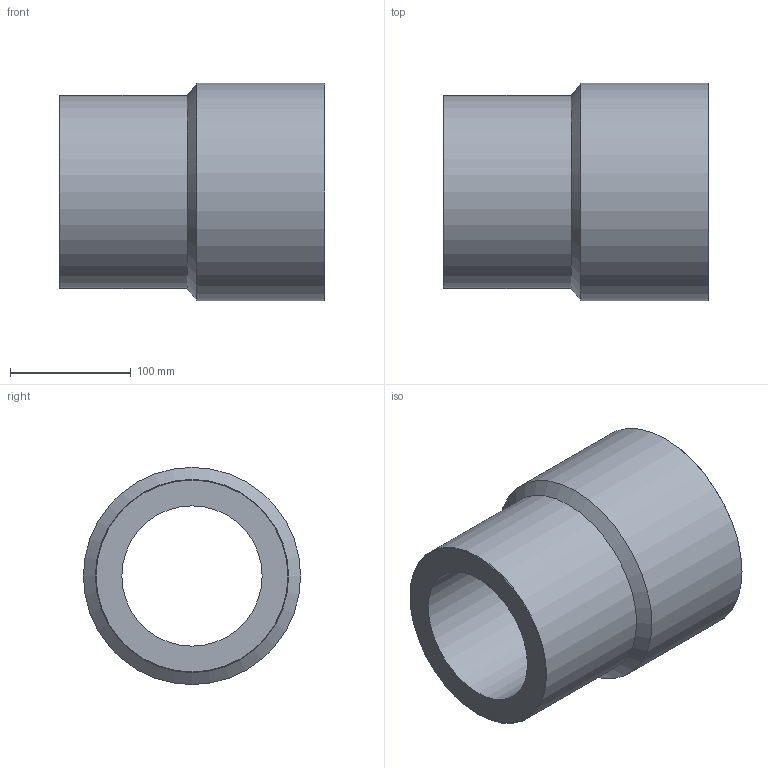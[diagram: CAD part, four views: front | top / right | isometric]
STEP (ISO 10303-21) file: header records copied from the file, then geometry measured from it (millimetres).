
FILE_DESCRIPTION(/* description */ ('Unknown'),/* implementation_level */ '2;1');
FILE_NAME(/* name */ 'RP180160H',/* time_stamp */ '2021-09-16T14:44:02+02:00',/* author */ ('Unknown'),/* organization */ ('Unknown'),/* preprocessor_version */ 'ST-DEVELOPER v16.7',/* originating_system */ 'Solid Edge',/* authorisation */ 'Unknown');
FILE_SCHEMA (('AUTOMOTIVE_DESIGN {1 0 10303 214 3 1 1}'));
Length unit declared in the file: millimetre
Products named in the file (1): RP180160H
Bounding box: 220 x 180 x 180 mm (x, y, z)
Volume: 2384453.4 mm3; surface area: 227059.9 mm2
Topology: 1 solids, 1 shells, 10 faces, 19 edges, 11 vertices
Faces by surface type: cylinder 4, cone 4, plane 2
Full cylindrical faces by diameter (mm): 116.2 x1, 130.8 x1, 160 x1, 180 x1
Entity records: 238 total; most frequent: DIRECTION 42, CARTESIAN_POINT 31, AXIS2_PLACEMENT_3D 21, ORIENTED_EDGE 20, EDGE_LOOP 20, FACE_BOUND 20, EDGE_CURVE 10, VERTEX_POINT 10
